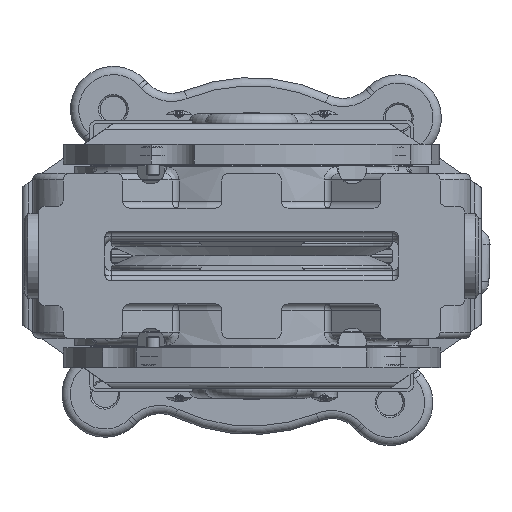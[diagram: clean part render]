
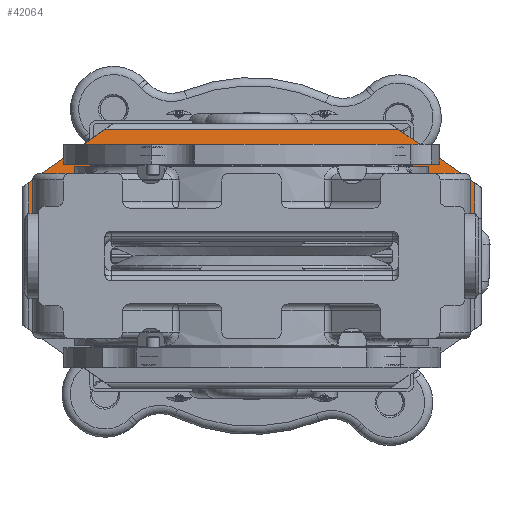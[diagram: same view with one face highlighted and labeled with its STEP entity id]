
A CAD part, front view. The second image highlights one B-rep face of the part: STEP entity #42064.
In plain terms, the highlighted planar face has unit normal (0, -0.995, 0.104).
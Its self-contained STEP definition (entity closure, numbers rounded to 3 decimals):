
#268=ELLIPSE('',#45299,5.028,5.);
#269=ELLIPSE('',#45300,5.028,5.);
#270=ELLIPSE('',#45301,25.138,25.);
#271=ELLIPSE('',#45302,9.05,9.);
#272=ELLIPSE('',#45303,25.138,25.);
#273=ELLIPSE('',#45304,25.138,25.);
#274=ELLIPSE('',#45305,9.05,9.);
#275=ELLIPSE('',#45306,25.138,25.);
#640=B_SPLINE_CURVE_WITH_KNOTS('',3,(#68767,#68768,#68769,#68770,#68771,
#68772),.UNSPECIFIED.,.F.,.F.,(4,2,4),(-5.92,-5.909,
-5.882),.UNSPECIFIED.);
#641=B_SPLINE_CURVE_WITH_KNOTS('',3,(#68788,#68789,#68790,#68791,#68792,
#68793),.UNSPECIFIED.,.F.,.F.,(4,2,4),(-13.563,-13.536,
-13.525),.UNSPECIFIED.);
#2073=LINE('',#64047,#4236);
#2075=LINE('',#64055,#4238);
#2076=LINE('',#64081,#4239);
#2446=LINE('',#68774,#4609);
#2447=LINE('',#68776,#4610);
#2448=LINE('',#68778,#4611);
#2449=LINE('',#68780,#4612);
#2450=LINE('',#68782,#4613);
#2451=LINE('',#68784,#4614);
#2452=LINE('',#68786,#4615);
#4236=VECTOR('',#50822,1000.);
#4238=VECTOR('',#50828,1000.);
#4239=VECTOR('',#50829,1000.);
#4609=VECTOR('',#52529,1000.);
#4610=VECTOR('',#52530,1000.);
#4611=VECTOR('',#52531,1000.);
#4612=VECTOR('',#52532,1000.);
#4613=VECTOR('',#52533,1000.);
#4614=VECTOR('',#52534,1000.);
#4615=VECTOR('',#52535,1000.);
#7997=FACE_OUTER_BOUND('',#10529,.T.);
#10529=EDGE_LOOP('',(#28609,#28610,#28611,#28612,#28613,#28614,#28615,#28616,
#28617,#28618,#28619,#28620,#28621,#28622,#28623,#28624,#28625,#28626,#28627,
#28628));
#16048=VERTEX_POINT('',#64038);
#16050=VERTEX_POINT('',#64046);
#16053=VERTEX_POINT('',#64052);
#16054=VERTEX_POINT('',#64054);
#16056=VERTEX_POINT('',#64073);
#16057=VERTEX_POINT('',#64080);
#16697=VERTEX_POINT('',#68760);
#16698=VERTEX_POINT('',#68762);
#16699=VERTEX_POINT('',#68764);
#16700=VERTEX_POINT('',#68766);
#16701=VERTEX_POINT('',#68773);
#16702=VERTEX_POINT('',#68775);
#16703=VERTEX_POINT('',#68777);
#16704=VERTEX_POINT('',#68779);
#16705=VERTEX_POINT('',#68781);
#16706=VERTEX_POINT('',#68783);
#16707=VERTEX_POINT('',#68785);
#16708=VERTEX_POINT('',#68787);
#16709=VERTEX_POINT('',#68794);
#16710=VERTEX_POINT('',#68796);
#20240=EDGE_CURVE('',#16050,#16048,#2073,.T.);
#20244=EDGE_CURVE('',#16054,#16053,#2075,.T.);
#20247=EDGE_CURVE('',#16057,#16056,#2076,.T.);
#21170=EDGE_CURVE('',#16057,#16048,#268,.T.);
#21171=EDGE_CURVE('',#16054,#16056,#269,.T.);
#21172=EDGE_CURVE('',#16053,#16697,#270,.F.);
#21173=EDGE_CURVE('',#16697,#16698,#271,.F.);
#21174=EDGE_CURVE('',#16698,#16699,#272,.F.);
#21175=EDGE_CURVE('',#16699,#16700,#640,.T.);
#21176=EDGE_CURVE('',#16701,#16700,#2446,.T.);
#21177=EDGE_CURVE('',#16701,#16702,#2447,.T.);
#21178=EDGE_CURVE('',#16702,#16703,#2448,.F.);
#21179=EDGE_CURVE('',#16703,#16704,#2449,.T.);
#21180=EDGE_CURVE('',#16704,#16705,#2450,.F.);
#21181=EDGE_CURVE('',#16705,#16706,#2451,.F.);
#21182=EDGE_CURVE('',#16707,#16706,#2452,.T.);
#21183=EDGE_CURVE('',#16707,#16708,#641,.T.);
#21184=EDGE_CURVE('',#16708,#16709,#273,.F.);
#21185=EDGE_CURVE('',#16709,#16710,#274,.F.);
#21186=EDGE_CURVE('',#16710,#16050,#275,.F.);
#28609=ORIENTED_EDGE('',*,*,#21170,.F.);
#28610=ORIENTED_EDGE('',*,*,#20247,.T.);
#28611=ORIENTED_EDGE('',*,*,#21171,.F.);
#28612=ORIENTED_EDGE('',*,*,#20244,.T.);
#28613=ORIENTED_EDGE('',*,*,#21172,.T.);
#28614=ORIENTED_EDGE('',*,*,#21173,.T.);
#28615=ORIENTED_EDGE('',*,*,#21174,.T.);
#28616=ORIENTED_EDGE('',*,*,#21175,.T.);
#28617=ORIENTED_EDGE('',*,*,#21176,.F.);
#28618=ORIENTED_EDGE('',*,*,#21177,.T.);
#28619=ORIENTED_EDGE('',*,*,#21178,.T.);
#28620=ORIENTED_EDGE('',*,*,#21179,.T.);
#28621=ORIENTED_EDGE('',*,*,#21180,.T.);
#28622=ORIENTED_EDGE('',*,*,#21181,.T.);
#28623=ORIENTED_EDGE('',*,*,#21182,.F.);
#28624=ORIENTED_EDGE('',*,*,#21183,.T.);
#28625=ORIENTED_EDGE('',*,*,#21184,.T.);
#28626=ORIENTED_EDGE('',*,*,#21185,.T.);
#28627=ORIENTED_EDGE('',*,*,#21186,.T.);
#28628=ORIENTED_EDGE('',*,*,#20240,.T.);
#38768=PLANE('',#45298);
#42064=ADVANCED_FACE('',(#7997),#38768,.T.);
#45298=AXIS2_PLACEMENT_3D('',#68757,#52517,#52518);
#45299=AXIS2_PLACEMENT_3D('',#68758,#52519,#52520);
#45300=AXIS2_PLACEMENT_3D('',#68759,#52521,#52522);
#45301=AXIS2_PLACEMENT_3D('',#68761,#52523,#52524);
#45302=AXIS2_PLACEMENT_3D('',#68763,#52525,#52526);
#45303=AXIS2_PLACEMENT_3D('',#68765,#52527,#52528);
#45304=AXIS2_PLACEMENT_3D('',#68795,#52536,#52537);
#45305=AXIS2_PLACEMENT_3D('',#68797,#52538,#52539);
#45306=AXIS2_PLACEMENT_3D('',#68798,#52540,#52541);
#50822=DIRECTION('',(1.,0.,0.));
#50828=DIRECTION('',(1.,0.,0.));
#50829=DIRECTION('',(1.,0.,0.));
#52517=DIRECTION('center_axis',(0.,-0.995,
0.105));
#52518=DIRECTION('ref_axis',(0.,-0.105,-0.995));
#52519=DIRECTION('center_axis',(0.,-0.995,
0.105));
#52520=DIRECTION('ref_axis',(0.,0.105,0.995));
#52521=DIRECTION('center_axis',(0.,-0.995,
0.105));
#52522=DIRECTION('ref_axis',(0.,0.105,0.995));
#52523=DIRECTION('center_axis',(0.,-0.995,
0.105));
#52524=DIRECTION('ref_axis',(0.,-0.105,-0.995));
#52525=DIRECTION('center_axis',(0.,-0.995,
0.105));
#52526=DIRECTION('ref_axis',(0.,-0.105,-0.995));
#52527=DIRECTION('center_axis',(0.,-0.995,
0.105));
#52528=DIRECTION('ref_axis',(0.,-0.105,-0.995));
#52529=DIRECTION('',(-1.,0.,0.));
#52530=DIRECTION('',(0.,0.105,0.995));
#52531=DIRECTION('',(0.818,-0.06,-0.573));
#52532=DIRECTION('',(-1.,0.,0.));
#52533=DIRECTION('',(0.818,0.06,0.573));
#52534=DIRECTION('',(0.,0.105,0.995));
#52535=DIRECTION('',(-1.,0.,0.));
#52536=DIRECTION('center_axis',(0.,-0.995,
0.105));
#52537=DIRECTION('ref_axis',(0.,-0.105,-0.995));
#52538=DIRECTION('center_axis',(0.,-0.995,
0.105));
#52539=DIRECTION('ref_axis',(0.,-0.105,-0.995));
#52540=DIRECTION('center_axis',(0.,-0.995,
0.105));
#52541=DIRECTION('ref_axis',(0.,-0.105,-0.995));
#64038=CARTESIAN_POINT('',(-35.481,108.982,25.559));
#64046=CARTESIAN_POINT('',(-41.5,108.982,25.559));
#64047=CARTESIAN_POINT('',(69.5,108.982,25.559));
#64052=CARTESIAN_POINT('',(41.5,108.982,25.559));
#64054=CARTESIAN_POINT('',(35.481,108.982,25.559));
#64055=CARTESIAN_POINT('',(69.5,108.982,25.559));
#64073=CARTESIAN_POINT('',(25.519,108.982,25.559));
#64080=CARTESIAN_POINT('',(-25.519,108.982,25.559));
#64081=CARTESIAN_POINT('',(69.5,108.982,25.559));
#68757=CARTESIAN_POINT('Origin',(69.5,107.5,11.457));
#68758=CARTESIAN_POINT('Origin',(-30.5,109.029,26.));
#68759=CARTESIAN_POINT('Origin',(30.5,109.029,26.));
#68760=CARTESIAN_POINT('',(51.663,108.755,23.4));
#68761=CARTESIAN_POINT('Origin',(41.5,106.355,0.559));
#68762=CARTESIAN_POINT('',(61.992,107.86,14.88));
#68763=CARTESIAN_POINT('Origin',(53.,107.82,14.5));
#68764=CARTESIAN_POINT('',(64.039,107.491,11.375));
#68765=CARTESIAN_POINT('Origin',(41.5,106.355,0.559));
#68766=CARTESIAN_POINT('',(64.432,107.5,11.457));
#68767=CARTESIAN_POINT('Ctrl Pts',(64.039,107.491,11.375));
#68768=CARTESIAN_POINT('Ctrl Pts',(64.076,107.493,11.392));
#68769=CARTESIAN_POINT('Ctrl Pts',(64.114,107.495,11.406));
#68770=CARTESIAN_POINT('Ctrl Pts',(64.235,107.499,11.443));
#68771=CARTESIAN_POINT('Ctrl Pts',(64.342,107.5,11.457));
#68772=CARTESIAN_POINT('Ctrl Pts',(64.432,107.5,11.457));
#68773=CARTESIAN_POINT('',(67.5,107.5,11.457));
#68774=CARTESIAN_POINT('',(69.5,107.5,11.457));
#68775=CARTESIAN_POINT('',(67.5,108.623,22.145));
#68776=CARTESIAN_POINT('',(67.5,108.476,20.744));
#68777=CARTESIAN_POINT('',(44.558,110.312,38.209));
#68778=CARTESIAN_POINT('',(73.896,108.153,17.666));
#68779=CARTESIAN_POINT('',(-44.558,110.312,38.209));
#68780=CARTESIAN_POINT('',(-42.,110.312,38.209));
#68781=CARTESIAN_POINT('',(-67.5,108.623,22.145));
#68782=CARTESIAN_POINT('',(19.037,114.992,82.738));
#68783=CARTESIAN_POINT('',(-67.5,107.5,11.457));
#68784=CARTESIAN_POINT('',(-67.5,107.5,11.457));
#68785=CARTESIAN_POINT('',(-64.432,107.5,11.457));
#68786=CARTESIAN_POINT('',(69.5,107.5,11.457));
#68787=CARTESIAN_POINT('',(-64.039,107.491,11.375));
#68788=CARTESIAN_POINT('Ctrl Pts',(-64.432,107.5,11.457));
#68789=CARTESIAN_POINT('Ctrl Pts',(-64.342,107.5,11.457));
#68790=CARTESIAN_POINT('Ctrl Pts',(-64.235,107.499,11.443));
#68791=CARTESIAN_POINT('Ctrl Pts',(-64.114,107.495,11.406));
#68792=CARTESIAN_POINT('Ctrl Pts',(-64.076,107.493,11.392));
#68793=CARTESIAN_POINT('Ctrl Pts',(-64.039,107.491,11.375));
#68794=CARTESIAN_POINT('',(-61.992,107.86,14.88));
#68795=CARTESIAN_POINT('Origin',(-41.5,106.355,0.559));
#68796=CARTESIAN_POINT('',(-51.663,108.755,23.4));
#68797=CARTESIAN_POINT('Origin',(-53.,107.82,14.5));
#68798=CARTESIAN_POINT('Origin',(-41.5,106.355,0.559));
